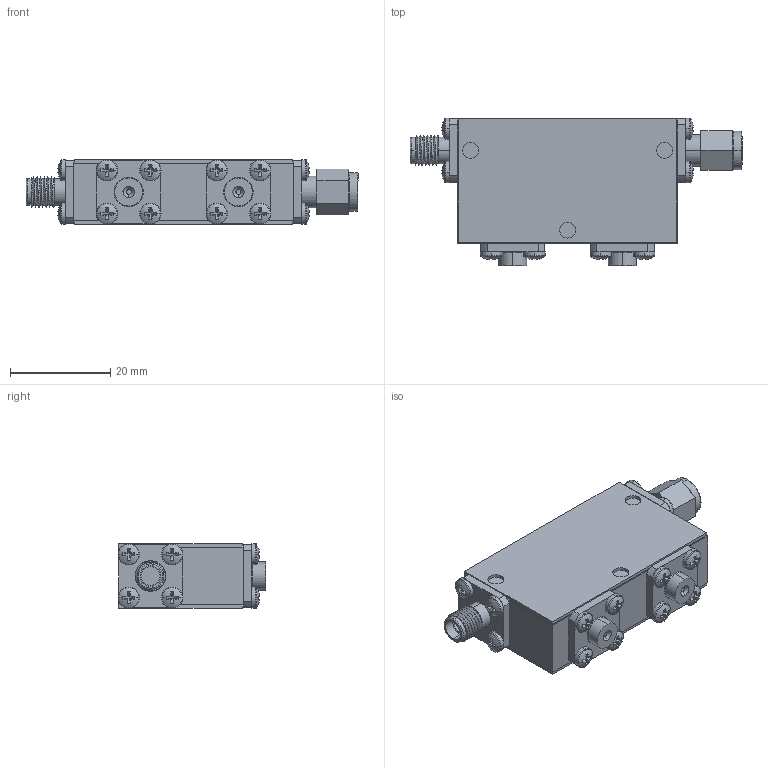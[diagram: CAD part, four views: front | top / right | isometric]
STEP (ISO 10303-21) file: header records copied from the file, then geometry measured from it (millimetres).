
FILE_DESCRIPTION (( 'STEP AP214' ), '1' );
FILE_NAME ('Package 19-2 Iso FM, Cryo Unshielded.STEP', '2023-12-20T23:10:01', ( '' ), ( '' ), 'SwSTEP 2.0', 'SolidWorks 2016', '' );
FILE_SCHEMA (( 'AUTOMOTIVE_DESIGN' ));
Length unit declared in the file: inch
Products named in the file (7): pan cross head_ai_CR-PHMS 0.086-56x0.125x0.125-N; Delta SMA-Female 0.500 flange Threaded; Package Size 19; WR053; Package 19-2 Iso FM, Cryo Unshielded; Delta SMA-Male; 030013-1A Same Base thickness as connectors
Assembly tree (22 placements, depth 2):
  Package 19-2 Iso FM, Cryo Unshielded
    Delta SMA-Female 0.500 flange Threaded
    pan cross head_ai_CR-PHMS 0.086-56x0.125x0.125-N  x16
    Package Size 19
    Delta SMA-Male
    030013-1A Same Base thickness as connectors  x2
    WR053
Bounding box: 66.09 x 29.43 x 12.88 mm (x, y, z)
Volume: 15521 mm3; surface area: 12584 mm2
Topology: 22 solids, 22 shells, 562 faces, 1289 edges, 797 vertices
Faces by surface type: plane 305, cylinder 170, torus 44, sphere 32, cone 8, bspline 3
Entity records: 6845 total; most frequent: CARTESIAN_POINT 1703, DIRECTION 1105, ORIENTED_EDGE 918, EDGE_CURVE 459, AXIS2_PLACEMENT_3D 447, VERTEX_POINT 295, EDGE_LOOP 252, CIRCLE 240
